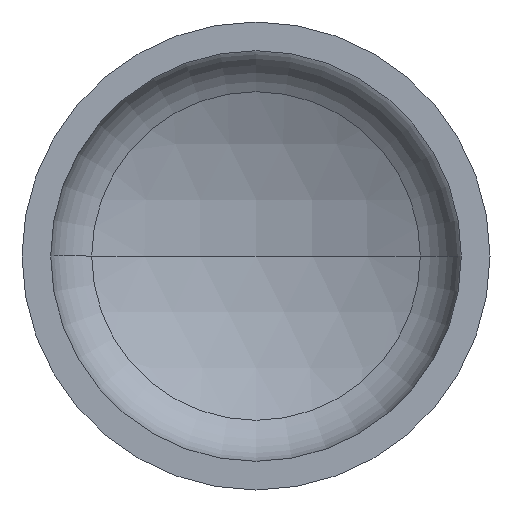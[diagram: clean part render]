
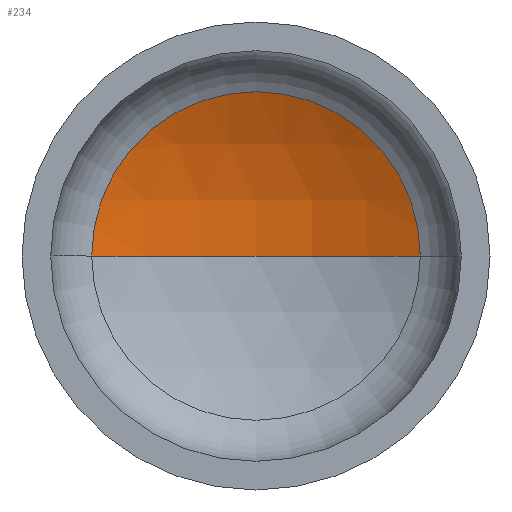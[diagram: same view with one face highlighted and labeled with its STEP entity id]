
A CAD part, front view. The second image highlights one B-rep face of the part: STEP entity #234.
In plain terms, the highlighted spherical face has radius 640 mm.
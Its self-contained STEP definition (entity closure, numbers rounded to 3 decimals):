
#4 = ORIENTED_EDGE ( 'NONE', *, *, #99, .T. ) ;
#14 = VERTEX_POINT ( 'NONE', #269 ) ;
#41 = EDGE_CURVE ( 'NONE', #386, #14, #159, .T. ) ;
#47 = CIRCLE ( 'NONE', #325, 640. ) ;
#49 = ORIENTED_EDGE ( 'NONE', *, *, #129, .F. ) ;
#98 = AXIS2_PLACEMENT_3D ( 'NONE', #214, #242, #240 ) ;
#99 = EDGE_CURVE ( 'NONE', #126, #386, #367, .T. ) ;
#126 = VERTEX_POINT ( 'NONE', #176 ) ;
#129 = EDGE_CURVE ( 'NONE', #126, #14, #47, .T. ) ;
#159 = CIRCLE ( 'NONE', #221, 280.854 ) ;
#176 = CARTESIAN_POINT ( 'NONE',  ( 0., 327.238, 0. ) ) ;
#199 = CARTESIAN_POINT ( 'NONE',  ( 0., 262.321, 0. ) ) ;
#210 = DIRECTION ( 'NONE',  ( 1., 0., 0. ) ) ;
#211 = DIRECTION ( 'NONE',  ( 0., -1., 0. ) ) ;
#214 = CARTESIAN_POINT ( 'NONE',  ( 0., -312.762, 0. ) ) ;
#221 = AXIS2_PLACEMENT_3D ( 'NONE', #199, #211, #210 ) ;
#234 = ADVANCED_FACE ( 'NONE', ( #274 ), #343, .F. ) ;
#240 = DIRECTION ( 'NONE',  ( -1., 0., 0. ) ) ;
#242 = DIRECTION ( 'NONE',  ( 0., 0., -1. ) ) ;
#269 = CARTESIAN_POINT ( 'NONE',  ( -280.854, 262.321, 0. ) ) ;
#274 = FACE_OUTER_BOUND ( 'NONE', #403, .T. ) ;
#282 = DIRECTION ( 'NONE',  ( 1., 0., 0. ) ) ;
#283 = DIRECTION ( 'NONE',  ( 0., 0., 1. ) ) ;
#285 = AXIS2_PLACEMENT_3D ( 'NONE', #336, #392, #354 ) ;
#301 = CARTESIAN_POINT ( 'NONE',  ( 0., -312.762, 0. ) ) ;
#325 = AXIS2_PLACEMENT_3D ( 'NONE', #301, #283, #282 ) ;
#327 = ORIENTED_EDGE ( 'NONE', *, *, #41, .T. ) ;
#336 = CARTESIAN_POINT ( 'NONE',  ( 0., -312.762, 0. ) ) ;
#343 = SPHERICAL_SURFACE ( 'NONE', #98, 640. ) ;
#354 = DIRECTION ( 'NONE',  ( -1., 0., 0. ) ) ;
#367 = CIRCLE ( 'NONE', #285, 640. ) ;
#386 = VERTEX_POINT ( 'NONE', #400 ) ;
#392 = DIRECTION ( 'NONE',  ( 0., 0., -1. ) ) ;
#400 = CARTESIAN_POINT ( 'NONE',  ( 280.854, 262.321, 0. ) ) ;
#403 = EDGE_LOOP ( 'NONE', ( #49, #4, #327 ) ) ;
